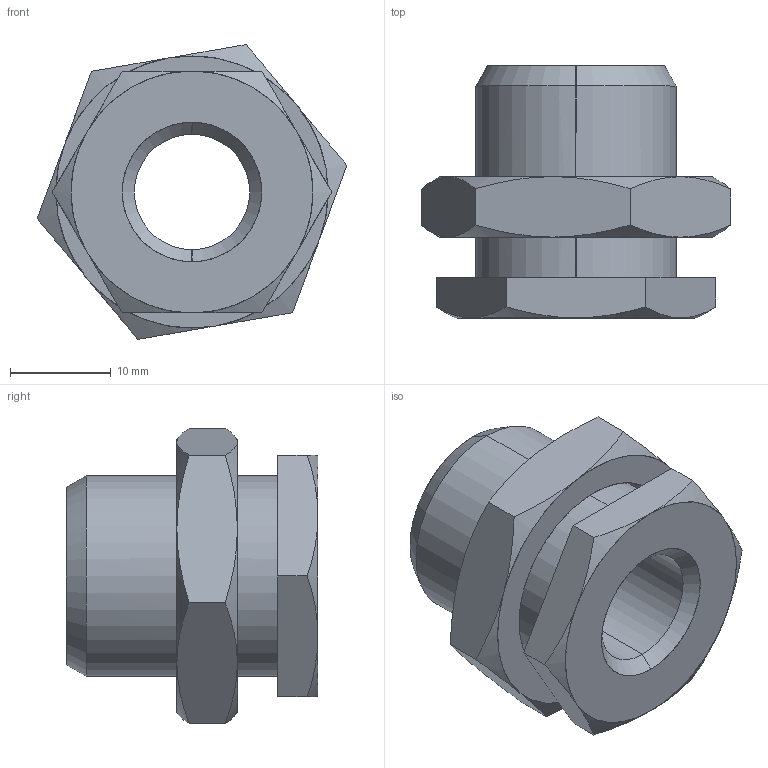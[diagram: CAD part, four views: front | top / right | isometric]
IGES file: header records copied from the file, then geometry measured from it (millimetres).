
Start section: SolidWorks IGES file using analytic representation for surfaces
Global section: file name: K:\Disegni Esecutivi\Accessori\3060\ASSIEMI_PIENI_3060\0306000003.IGS; native system: SolidWorks 2007; preprocessor: SolidWorks 2007; author: cad02; date: 071024.164742; units: millimetre
Bounding box: 30.72 x 25 x 29.26 mm (x, y, z)
Surface area: 4235.5 mm2 (no closed solid volume)
Topology: 0 solids, 0 shells, 53 faces, 758 edges, 758 vertices
Faces by surface type: revolution 36, bspline 17
